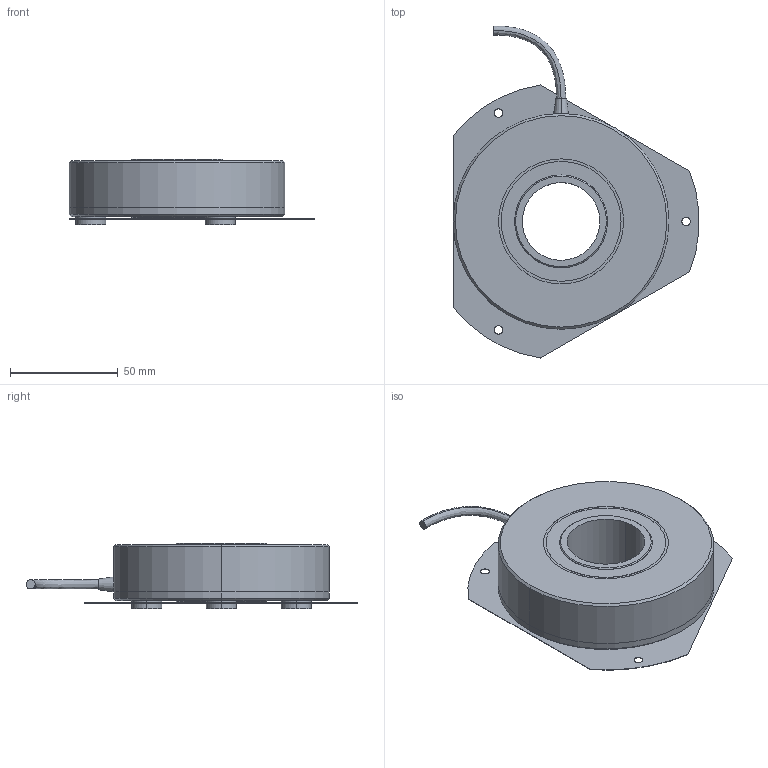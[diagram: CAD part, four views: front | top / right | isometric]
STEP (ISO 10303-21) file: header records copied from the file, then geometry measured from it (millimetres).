
FILE_DESCRIPTION (( 'STEP AP214' ), '1' );
FILE_NAME ('NH-10800_Assem2.STEP', '2024-08-20T02:43:14', ( '' ), ( '' ), 'SwSTEP 2.0', 'SolidWorks 2023', '' );
FILE_SCHEMA (( 'AUTOMOTIVE_DESIGN' ));
Length unit declared in the file: millimetre
Products named in the file (9): 座金Ｂ Φ14_1mm厚M4; NH-10800_Part1; NH-10800_Part4; 座金Ａ Φ14_2.5mm厚M4; NH-10800_Part3; NH-10800_Assem1; Flat Head SCREW M4 X8 MM; NH-10800_Assem2; NH-10800_Part2
Assembly tree (14 placements, depth 3):
  NH-10800_Assem2
    NH-10800_Assem1
      NH-10800_Part1
      NH-10800_Part2
      NH-10800_Part3
    NH-10800_Part4
    座金Ｂ Φ14_1mm厚M4  x3
    座金Ａ Φ14_2.5mm厚M4  x3
    Flat Head SCREW M4 X8 MM  x3
Bounding box: 113.82 x 153.87 x 30.2 mm (x, y, z)
Volume: 181215.1 mm3; surface area: 61963.5 mm2
Topology: 14 solids, 14 shells, 191 faces, 466 edges, 314 vertices
Faces by surface type: cylinder 92, plane 57, cone 28, bspline 14
Entity records: 4218 total; most frequent: CARTESIAN_POINT 903, DIRECTION 704, ORIENTED_EDGE 572, AXIS2_PLACEMENT_3D 287, EDGE_CURVE 286, VERTEX_POINT 190, EDGE_LOOP 160, CIRCLE 154
